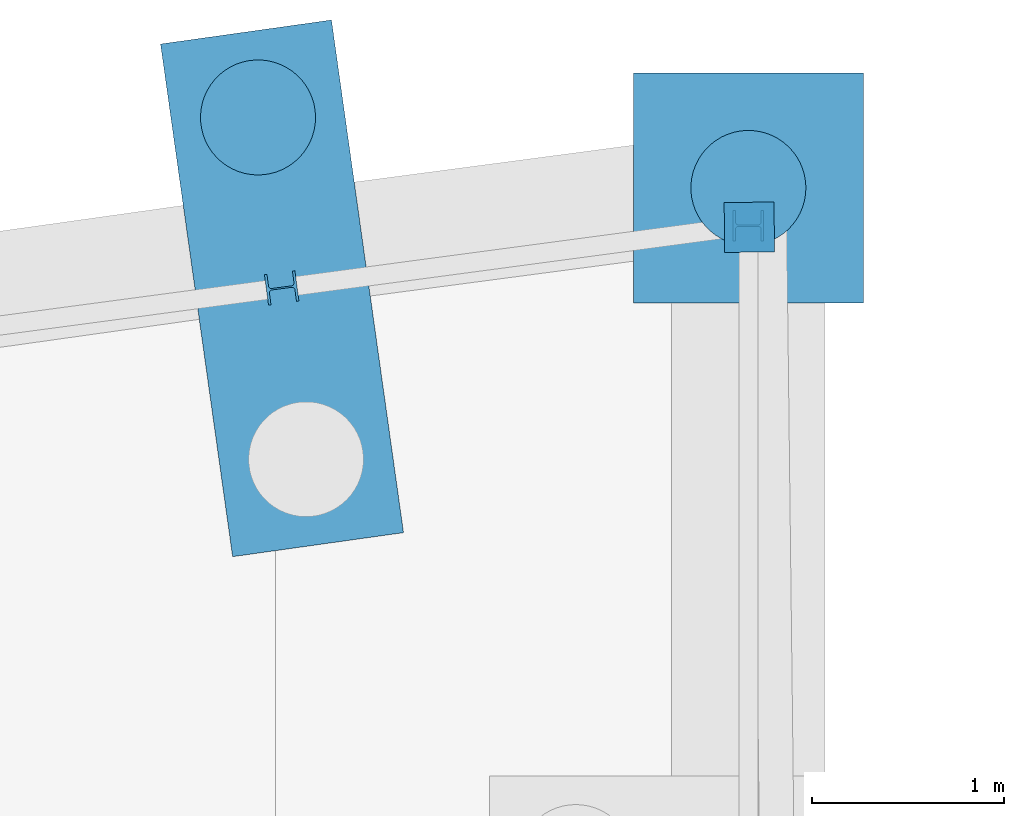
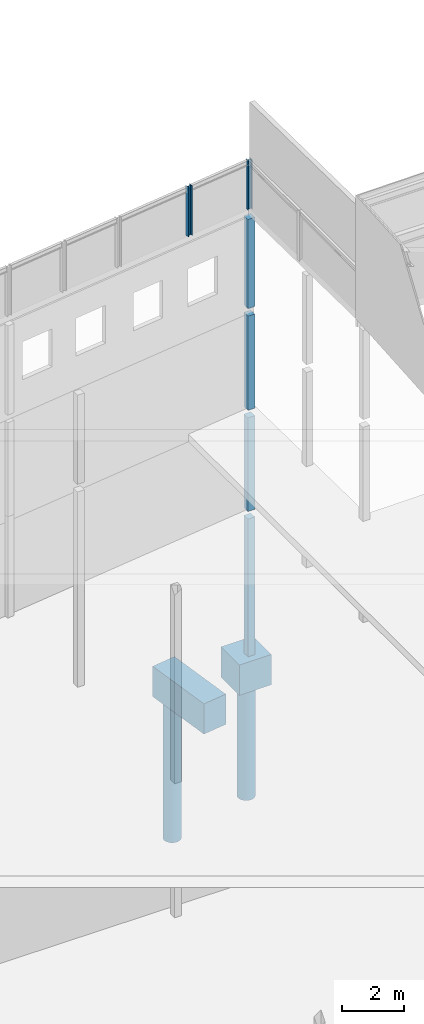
# One storey, part 55 of 82: 10 columns.
"""IFC2X3 building model written with IfcOpenShell, lengths in millimetres."""

from ifc_helpers import new_model, si_unit, frame, frame_2d, origin_with_axes, place, context, subcontext, project, spatial, rectangle, circle, i_section, extrude, material, type_object, element, save


model = new_model("IFC2X3")

# Units and contexts
model_context = context("Model", 3, precision=1e-05, world=origin_with_axes())
body_context = subcontext(model_context, "Body", "Model", "MODEL_VIEW")
ifc_project = project(units=[si_unit("LENGTHUNIT", "METRE", prefix="MILLI"), si_unit("AREAUNIT", "SQUARE_METRE"), si_unit("VOLUMEUNIT", "CUBIC_METRE"), si_unit("MASSUNIT", "GRAM", prefix="KILO"), si_unit("TIMEUNIT", "SECOND"), si_unit("PLANEANGLEUNIT", "RADIAN"), si_unit("SOLIDANGLEUNIT", "STERADIAN"), si_unit("THERMODYNAMICTEMPERATUREUNIT", "DEGREE_CELSIUS"), si_unit("LUMINOUSINTENSITYUNIT", "LUMEN")], contexts=[model_context])

# Site, building, storey
site_placement = place(None, origin_with_axes())
site = spatial("IfcSite", under=ifc_project, at=site_placement, Name="Undefined", CompositionType="ELEMENT")
building_placement = place(site_placement, origin_with_axes())
building = spatial("IfcBuilding", under=site, at=building_placement, Name="Undefined", CompositionType="ELEMENT")
storey_placement = place(building_placement, origin_with_axes())
storey = spatial("IfcBuildingStorey", under=building, at=storey_placement, Name="Undefined", CompositionType="ELEMENT", Elevation=0.0)

# Columns
ifc_material_1 = material(Name="CONCRETE/C25/30")
column_type_1 = type_object("IfcColumnType", Name="260*260", PredefinedType="NOTDEFINED")
column_1_placement = place(storey_placement, frame((29255.0065447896, 30741.1379835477, 13330.0000000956), z_axis=(0.0, 0.0, 1.0), x_axis=(1.0, 0.0, 0.0)))
element("IfcColumn", 1, at=column_1_placement, inside=storey, type_object=column_type_1, material=ifc_material_1, Name="POTEAU", ObjectType="260*260", context=body_context, shape_type="SweptSolid", body=[
    extrude(rectangle(XDim=260.0, YDim=260.0, at=frame_2d((5.17284206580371e-08, 4.49290382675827e-10), x_axis=(1.0, 0.0))), frame((0.0, 0.0, 3529.99999999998), z_axis=(0.0, -6.50000002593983e-08, -0.999999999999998), x_axis=(-0.0117836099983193, 0.999930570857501, 0.0)), (0.0, 0.0, 1.0), 3530.0),
])
column_2_placement = place(storey_placement, frame((29255.0065447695, 30741.1379835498, 9305.00000009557), z_axis=(0.0, 0.0, 1.0), x_axis=(1.0, 0.0, 0.0)))
element("IfcColumn", 2, at=column_2_placement, inside=storey, type_object=column_type_1, material=ifc_material_1, Name="POTEAU", ObjectType="260*260", context=body_context, shape_type="SweptSolid", body=[
    extrude(rectangle(XDim=260.0, YDim=260.0, at=frame_2d((5.17284206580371e-08, 4.49290382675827e-10), x_axis=(1.0, 0.0))), frame((0.0, 0.0, 3725.0), z_axis=(0.0, -6.50000002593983e-08, -0.999999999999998), x_axis=(-0.0117836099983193, 0.999930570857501, 0.0)), (0.0, 0.0, 1.0), 3725.0),
])
column_3_placement = place(storey_placement, frame((29255.0065447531, 30741.1379835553, 5300.00000009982), z_axis=(0.0, 0.0, 1.0), x_axis=(1.0, 0.0, 0.0)))
element("IfcColumn", 3, at=column_3_placement, inside=storey, type_object=column_type_1, material=ifc_material_1, Name="POTEAU", ObjectType="260*260", context=body_context, shape_type="SweptSolid", body=[
    extrude(rectangle(XDim=260.0, YDim=260.0, at=frame_2d((5.17284206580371e-08, 4.49290382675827e-10), x_axis=(1.0, 0.0))), frame((0.0, 0.0, 3705.00000000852), z_axis=(0.0, -6.50000002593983e-08, -0.999999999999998), x_axis=(-0.0117836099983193, 0.999930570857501, 0.0)), (0.0, 0.0, 1.0), 3705.0),
])
column_4_placement = place(storey_placement, frame((29255.0065447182, 30741.137983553, -449.999511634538), z_axis=(0.0, 0.0, 1.0), x_axis=(1.0, 0.0, 0.0)))
element("IfcColumn", 4, at=column_4_placement, inside=storey, type_object=column_type_1, material=ifc_material_1, Name="POTEAU", ObjectType="260*260", context=body_context, shape_type="SweptSolid", body=[
    extrude(rectangle(XDim=260.0, YDim=260.0, at=frame_2d((5.17284206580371e-08, 4.49290382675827e-10), x_axis=(1.0, 0.0))), frame((0.0, 0.0, 5449.9995117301), z_axis=(0.0, -6.50000002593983e-08, -0.999999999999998), x_axis=(-0.0117836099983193, 0.999930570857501, 0.0)), (0.0, 0.0, 1.0), 5450.0),
])
ifc_material_2 = material(Name="STEEL/S275JR")
column_type_2 = type_object("IfcColumnType", Name="HEB160", PredefinedType="NOTDEFINED")
column_5_placement = place(storey_placement, frame((29250.0010695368, 30749.3806647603, 17160.0), z_axis=(0.0, 0.0, 1.0), x_axis=(1.0, 0.0, 0.0)))
element("IfcColumn", 5, at=column_5_placement, inside=storey, type_object=column_type_2, material=ifc_material_2, Name="POTEAU", ObjectType="HEB160", context=body_context, shape_type="SweptSolid", body=[
    extrude(i_section(OverallWidth=160.0, OverallDepth=160.0, WebThickness=8.0, FlangeThickness=13.0, FilletRadius=15.0, at=frame_2d((5.17284206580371e-08, 4.49290382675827e-10), x_axis=(1.0, 0.0))), frame((0.0, 0.0, 1965.0), z_axis=(0.0, -6.50000002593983e-08, -0.999999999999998), x_axis=(-2.77555756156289e-17, -1.0, 0.0)), (0.0, 0.0, 1.0), 1965.0),
])
column_6_placement = place(storey_placement, frame((26816.1237069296, 30424.6319854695, 17160.0), z_axis=(0.0, 0.0, 1.0), x_axis=(1.0, 0.0, 0.0)))
element("IfcColumn", 6, at=column_6_placement, inside=storey, type_object=column_type_2, material=ifc_material_2, Name="POTEAU", ObjectType="HEB160", context=body_context, shape_type="SweptSolid", body=[
    extrude(i_section(OverallWidth=160.0, OverallDepth=160.0, WebThickness=8.0, FlangeThickness=13.0, FilletRadius=15.0, at=frame_2d((5.17284206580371e-08, 4.49290382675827e-10), x_axis=(1.0, 0.0))), frame((0.0, 0.0, 1965.0), z_axis=(0.0, -6.50000002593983e-08, -0.999999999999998), x_axis=(0.132256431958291, -0.991215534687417, 0.0)), (0.0, 0.0, 1.0), 1965.0),
])
ifc_material_3 = material(Name="CONCRETE/C30/37")
column_type_3 = type_object("IfcColumnType", Name="1200*1200", PredefinedType="NOTDEFINED")
column_7_placement = place(storey_placement, frame((29250.0020748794, 30945.971188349, -1650.0), z_axis=(0.0, 0.0, 1.0), x_axis=(1.0, 0.0, 0.0)))
element("IfcColumn", 7, at=column_7_placement, inside=storey, type_object=column_type_3, material=ifc_material_3, Name="SEMELLE", ObjectType="1200*1200", context=body_context, shape_type="SweptSolid", body=[
    extrude(rectangle(XDim=1200.0, YDim=1200.0, at=frame_2d((5.17284206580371e-08, 4.49290382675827e-10), x_axis=(1.0, 0.0))), frame((0.0, 0.0, 1200.0), z_axis=(0.0, -6.50000002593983e-08, -0.999999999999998), x_axis=(-1.0, 0.0, 0.0)), (0.0, 0.0, 1.0), 1200.0),
])
column_type_4 = type_object("IfcColumnType", Name="2700*900", PredefinedType="NOTDEFINED")
column_8_placement = place(storey_placement, frame((26817.8357239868, 30422.3677146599, -1650.03), z_axis=(0.0, 0.0, 1.0), x_axis=(1.0, 0.0, 0.0)))
element("IfcColumn", 8, at=column_8_placement, inside=storey, type_object=column_type_4, material=ifc_material_3, Name="SEMELLE", ObjectType="2700*900", context=body_context, shape_type="SweptSolid", body=[
    extrude(rectangle(XDim=900.0, YDim=2700.0, at=frame_2d((5.17284206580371e-08, 4.49290382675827e-10), x_axis=(1.0, 0.0))), frame((0.0, 0.0, 1200.03), z_axis=(0.0, -6.50000002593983e-08, -0.999999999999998), x_axis=(-0.990268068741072, -0.13917310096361, 0.0)), (0.0, 0.0, 1.0), 1200.0),
])
column_type_5 = type_object("IfcColumnType", Name="D600", PredefinedType="NOTDEFINED")
column_9_placement = place(storey_placement, frame((26692.5820089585, 31313.6128118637, -7175.0), z_axis=(0.0, 0.0, 1.0), x_axis=(1.0, 0.0, 0.0)))
element("IfcColumn", 9, at=column_9_placement, inside=storey, type_object=column_type_5, material=ifc_material_1, Name="PIEU", ObjectType="D600", context=body_context, shape_type="SweptSolid", body=[
    extrude(circle(Radius=300.0, at=frame_2d((5.17284206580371e-08, 4.49290382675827e-10), x_axis=(1.0, 0.0))), frame((0.0, 0.0, 5750.0), z_axis=(0.0, -6.50000002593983e-08, -0.999999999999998), x_axis=(0.991215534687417, 0.132256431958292, 0.0)), (0.0, 0.0, 1.0), 5750.0),
])
column_10_placement = place(storey_placement, frame((29249.9999999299, 30945.9699999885, -6175.0), z_axis=(0.0, 0.0, 1.0), x_axis=(1.0, 0.0, 0.0)))
element("IfcColumn", 10, at=column_10_placement, inside=storey, type_object=column_type_5, material=ifc_material_1, Name="PIEU", ObjectType="D600", context=body_context, shape_type="SweptSolid", body=[
    extrude(circle(Radius=300.0, at=frame_2d((5.17284206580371e-08, 4.49290382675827e-10), x_axis=(1.0, 0.0))), frame((0.0, 0.0, 4750.0), z_axis=(0.0, -6.50000002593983e-08, -0.999999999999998), x_axis=(1.0, 0.0, 0.0)), (0.0, 0.0, 1.0), 4750.0),
])

save(model, "model.ifc")
